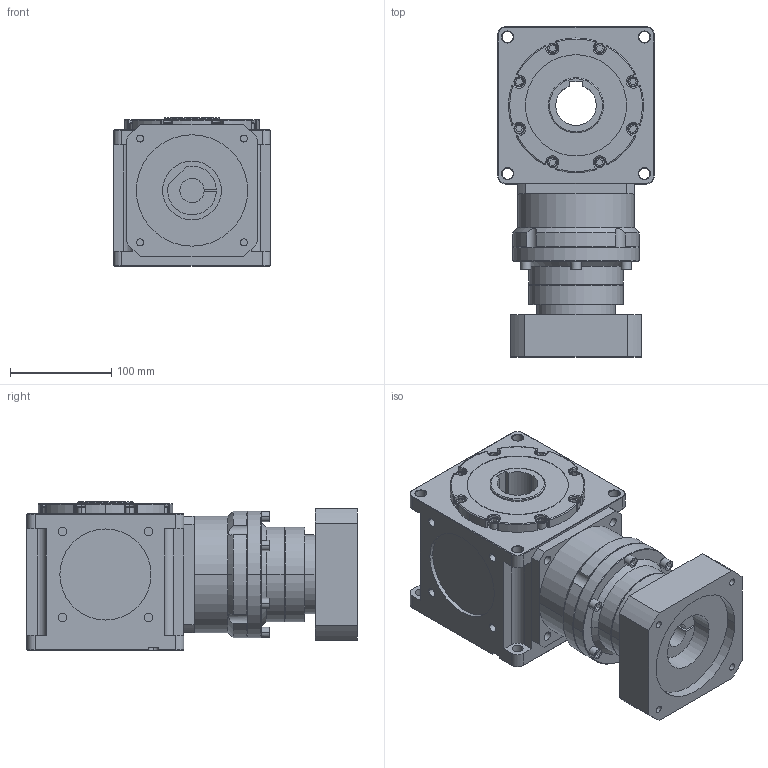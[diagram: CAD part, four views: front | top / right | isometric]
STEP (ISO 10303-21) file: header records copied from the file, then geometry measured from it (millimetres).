
FILE_DESCRIPTION (( 'STEP AP214' ), '1' );
FILE_NAME ('CCW155A-L2(24-200)-CR 24-110-145-M8.STEP', '2025-05-24T07:39:32', ( '微软用户' ), ( '微软中国' ), 'SwSTEP 2.0', 'SolidWorks 2024', '' );
FILE_SCHEMA (( 'AUTOMOTIVE_DESIGN' ));
Length unit declared in the file: millimetre
Products named in the file (3): VRB-115-L2-S2-P1 24-110-145-M8; CCW155A-L2(24-200)-CR 24-110-145-M8; CCW155A-002-CR箱体
Assembly tree (2 placements, depth 2):
  CCW155A-L2(24-200)-CR 24-110-145-M8
    VRB-115-L2-S2-P1 24-110-145-M8
    CCW155A-002-CR箱体
Bounding box: 155 x 326 x 147 mm (x, y, z)
Volume: 4742649.3 mm3; surface area: 321263.6 mm2
Topology: 2 solids, 2 shells, 584 faces, 1401 edges, 865 vertices
Faces by surface type: plane 240, cylinder 231, torus 50, cone 47, sphere 16
Entity records: 17347 total; most frequent: CARTESIAN_POINT 3246, DIRECTION 3165, ORIENTED_EDGE 2766, EDGE_CURVE 1383, AXIS2_PLACEMENT_3D 1218, VERTEX_POINT 865, VECTOR 729, LINE 729
